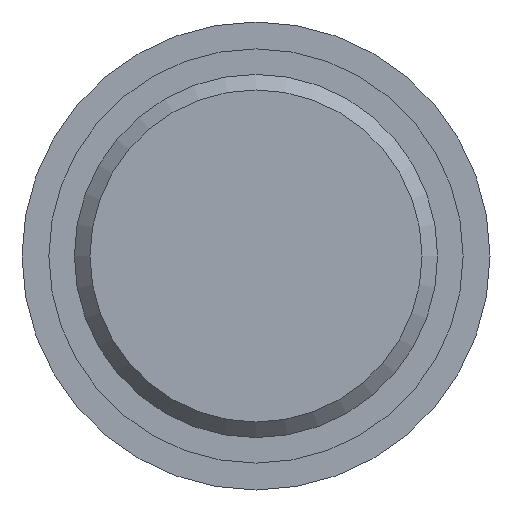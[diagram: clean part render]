
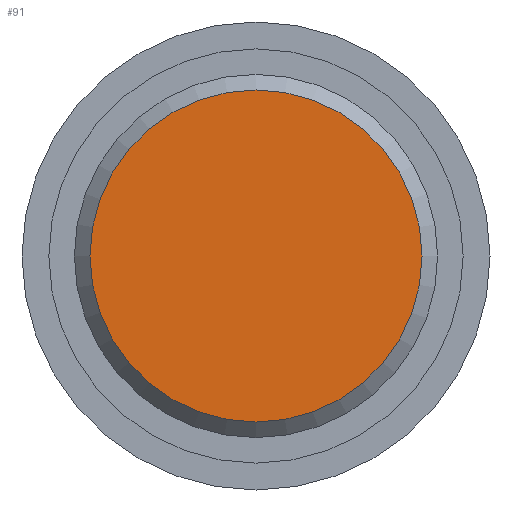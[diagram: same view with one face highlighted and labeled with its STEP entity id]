
A CAD part, front view. The second image highlights one B-rep face of the part: STEP entity #91.
In plain terms, the highlighted planar face has unit normal (0, -1, 0).
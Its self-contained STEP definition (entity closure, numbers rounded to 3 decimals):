
#91 = ADVANCED_FACE( '', ( #138 ), #139, .F. );
#138 = FACE_OUTER_BOUND( '', #193, .T. );
#139 = PLANE( '', #194 );
#193 = EDGE_LOOP( '', ( #308 ) );
#194 = AXIS2_PLACEMENT_3D( '', #309, #310, #311 );
#308 = ORIENTED_EDGE( '', *, *, #359, .T. );
#309 = CARTESIAN_POINT( '', ( 9.578, 0., 0. ) );
#310 = DIRECTION( '', ( 0., 1., 0. ) );
#311 = DIRECTION( '', ( 0., 0., 1. ) );
#359 = EDGE_CURVE( '', #411, #411, #412, .T. );
#411 = VERTEX_POINT( '', #485 );
#412 = CIRCLE( '', #486, 9.578 );
#485 = CARTESIAN_POINT( '', ( 0., 0., -9.578 ) );
#486 = AXIS2_PLACEMENT_3D( '', #538, #539, #540 );
#538 = CARTESIAN_POINT( '', ( 0., 0., 0. ) );
#539 = DIRECTION( '', ( 0., -1., 0. ) );
#540 = DIRECTION( '', ( 0., 0., -1. ) );
